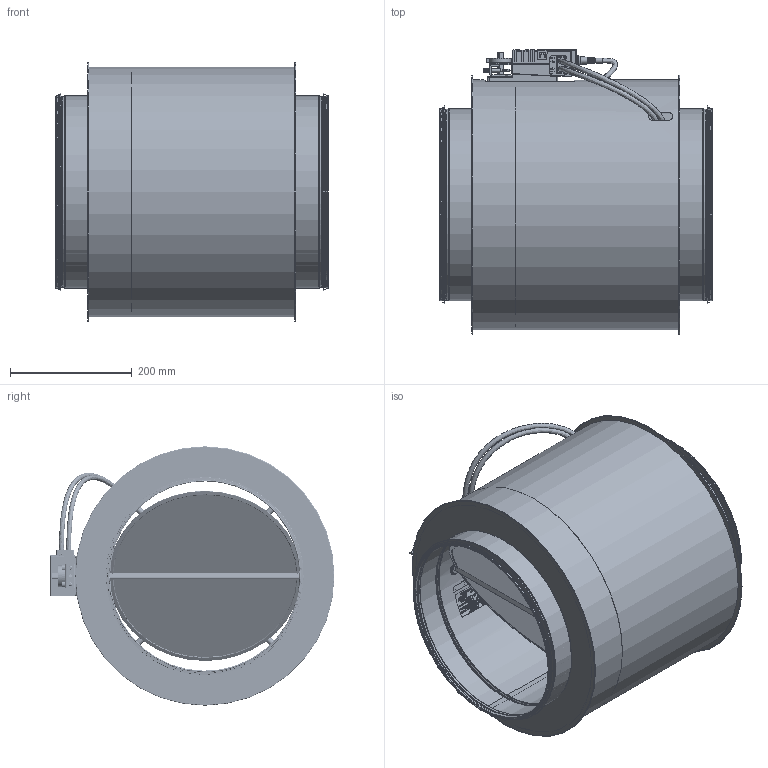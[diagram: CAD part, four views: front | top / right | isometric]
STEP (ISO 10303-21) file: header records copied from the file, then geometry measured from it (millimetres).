
FILE_DESCRIPTION (( 'STEP AP214' ), '1' );
FILE_NAME ('VAV-RI315.STEP', '2025-03-05T16:07:42', ( '' ), ( '' ), 'SwSTEP 2.0', 'SolidWorks 2025', '' );
FILE_SCHEMA (( 'AUTOMOTIVE_DESIGN' ));
Length unit declared in the file: millimetre
Products named in the file (20): Dichtung_innenxxx_x_x; KLAPPE315; VAV-RI315; BLECHSCHRAUBE; Isogehäuse_DN315; CROSS_WING315; Abschlusskappexxx_x_x; BELIMO_MOTOR BRACKET_DN300-400; Label VAVR315; CROSS_PLUG; Dichtung_Vierkantxxx_x_x; CROSS_PIECE; LMV-D3-MP; Dichtungen; CROSS_DN315; Sicherungsscheibexxx_x_x; LDE_DN315; DB_DN315; hose connection^VAV-RI315; VSRV_Zapfen
Assembly tree (28 placements, depth 3):
  VAV-RI315
    DB_DN315
    BELIMO_MOTOR BRACKET_DN300-400
    CROSS_DN315
      CROSS_PIECE
      CROSS_WING315  x4
      CROSS_PLUG  x3
      VSRV_Zapfen
    LDE_DN315  x2
    BLECHSCHRAUBE  x3
    LMV-D3-MP
    Dichtungen  x2
      Abschlusskappexxx_x_x
      Dichtung_innenxxx_x_x
      Dichtung_Vierkantxxx_x_x
      Sicherungsscheibexxx_x_x
    KLAPPE315
    Label VAVR315
    Isogehäuse_DN315
    hose connection^VAV-RI315
Bounding box: 447.79 x 467.32 x 425.45 mm (x, y, z)
Volume: 781773.7 mm3; surface area: 2529942.6 mm2
Topology: 31 solids, 49 shells, 6818 faces, 18459 edges, 12123 vertices
Faces by surface type: plane 3016, bspline 2511, cylinder 1033, torus 137, cone 91, sphere 30
Full cylindrical faces by diameter (mm): 1 x4, 1.911 x6, 2 x25, 2.5 x6, 3.5 x3, 4 x2, 5 x2, 5.5 x3, 6 x27, 7.5 x2, 8 x21, 11 x1, 16 x2, 20 x2, 21 x2, 21.422 x2, 23.5 x2, 25 x2, 310.845 x2, 311.74 x2, 312.4 x2, 314.14 x4, 315 x4, 316 x1, 324.74 x2, 408 x1, 409 x2, 410 x1
Entity records: 357342 total; most frequent: CARTESIAN_POINT 158826, ORIENTED_EDGE 34727, EDGE_CURVE 17385, DIRECTION 16123, VERTEX_POINT 11549, B_SPLINE_CURVE_WITH_KNOTS 11272, EDGE_LOOP 7231, FACE_OUTER_BOUND 6621
